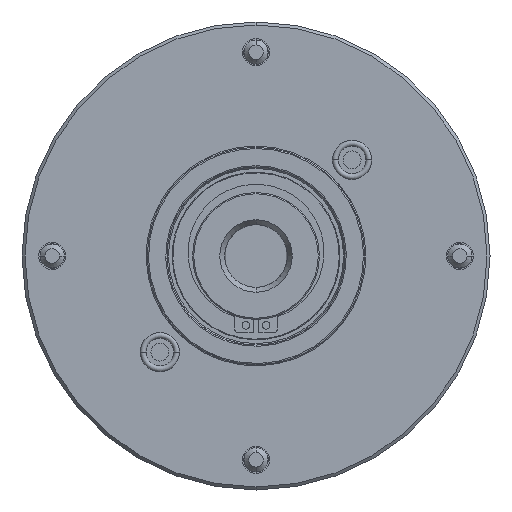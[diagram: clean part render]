
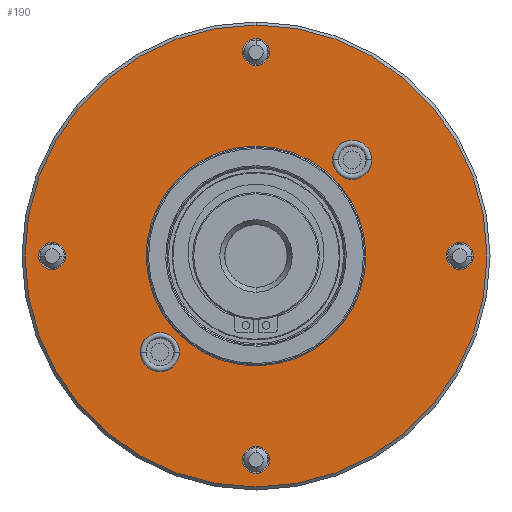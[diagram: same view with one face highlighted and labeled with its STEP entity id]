
A CAD part, front view. The second image highlights one B-rep face of the part: STEP entity #190.
In plain terms, the highlighted planar face has unit normal (0, -1, 0).
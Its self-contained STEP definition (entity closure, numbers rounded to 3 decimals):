
#16=CARTESIAN_POINT('',(0.0,2.5,36.4));
#17=VERTEX_POINT('',#16);
#18=CARTESIAN_POINT('',(34.618,2.5,-11.248));
#19=VERTEX_POINT('',#18);
#20=CARTESIAN_POINT('',(0.0,2.5,0.0));
#21=DIRECTION('',(0.0,1.0,0.0));
#22=DIRECTION('',(0.0,0.0,1.0));
#23=AXIS2_PLACEMENT_3D('',#20,#21,#22);
#24=CIRCLE('',#23,36.4);
#25=EDGE_CURVE('no 517',#17,#19,#24,.T.);
#26=ORIENTED_EDGE('',*,*,#25,.T.);
#27=CARTESIAN_POINT('',(-34.618,2.5,11.248));
#28=VERTEX_POINT('',#27);
#29=CARTESIAN_POINT('',(0.0,2.5,0.0));
#30=DIRECTION('',(0.0,1.0,0.0));
#31=DIRECTION('',(0.0,0.0,1.0));
#32=AXIS2_PLACEMENT_3D('',#29,#30,#31);
#33=CIRCLE('',#32,36.4);
#34=EDGE_CURVE('no 523',#19,#28,#33,.T.);
#35=ORIENTED_EDGE('',*,*,#34,.T.);
#36=CARTESIAN_POINT('',(0.0,2.5,0.0));
#37=DIRECTION('',(0.0,1.0,0.0));
#38=DIRECTION('',(0.0,0.0,1.0));
#39=AXIS2_PLACEMENT_3D('',#36,#37,#38);
#40=CIRCLE('',#39,36.4);
#41=EDGE_CURVE('no 527',#28,#17,#40,.T.);
#42=ORIENTED_EDGE('',*,*,#41,.T.);
#43=EDGE_LOOP('',(#26,#35,#42));
#44=FACE_BOUND('',#43,.T.);
#45=CARTESIAN_POINT('',(0.0,2.5,76.5));
#46=VERTEX_POINT('',#45);
#47=CARTESIAN_POINT('',(0.0,2.5,-76.5));
#48=VERTEX_POINT('',#47);
#49=CARTESIAN_POINT('',(0.0,2.5,0.0));
#50=DIRECTION('',(0.0,-1.0,0.0));
#51=DIRECTION('',(0.0,0.0,1.0));
#52=AXIS2_PLACEMENT_3D('',#49,#50,#51);
#53=CIRCLE('',#52,76.5);
#54=EDGE_CURVE('no 536',#46,#48,#53,.T.);
#55=ORIENTED_EDGE('',*,*,#54,.T.);
#56=CARTESIAN_POINT('',(0.0,2.5,0.0));
#57=DIRECTION('',(0.0,-1.0,0.0));
#58=DIRECTION('',(0.0,0.0,1.0));
#59=AXIS2_PLACEMENT_3D('',#56,#57,#58);
#60=CIRCLE('',#59,76.5);
#61=EDGE_CURVE('no 540',#48,#46,#60,.T.);
#62=ORIENTED_EDGE('',*,*,#61,.T.);
#63=EDGE_LOOP('',(#55,#62));
#64=FACE_OUTER_BOUND('',#63,.T.);
#65=CARTESIAN_POINT('',(0.0,2.5,-63.0));
#66=VERTEX_POINT('',#65);
#67=CARTESIAN_POINT('',(0.0,2.5,-72.0));
#68=VERTEX_POINT('',#67);
#69=CARTESIAN_POINT('',(0.0,2.5,-67.5));
#70=DIRECTION('',(0.0,-1.0,0.0));
#71=DIRECTION('',(0.0,0.0,-1.0));
#72=AXIS2_PLACEMENT_3D('',#69,#70,#71);
#73=CIRCLE('',#72,4.5);
#74=EDGE_CURVE('no 549',#66,#68,#73,.T.);
#75=ORIENTED_EDGE('',*,*,#74,.F.);
#76=CARTESIAN_POINT('',(0.0,2.5,-67.5));
#77=DIRECTION('',(0.0,-1.0,0.0));
#78=DIRECTION('',(0.0,0.0,-1.0));
#79=AXIS2_PLACEMENT_3D('',#76,#77,#78);
#80=CIRCLE('',#79,4.5);
#81=EDGE_CURVE('no 553',#68,#66,#80,.T.);
#82=ORIENTED_EDGE('',*,*,#81,.F.);
#83=EDGE_LOOP('',(#75,#82));
#84=FACE_BOUND('',#83,.T.);
#85=CARTESIAN_POINT('',(0.0,2.5,72.0));
#86=VERTEX_POINT('',#85);
#87=CARTESIAN_POINT('',(0.0,2.5,63.0));
#88=VERTEX_POINT('',#87);
#89=CARTESIAN_POINT('',(0.0,2.5,67.5));
#90=DIRECTION('',(0.0,-1.0,0.0));
#91=DIRECTION('',(0.0,0.0,-1.0));
#92=AXIS2_PLACEMENT_3D('',#89,#90,#91);
#93=CIRCLE('',#92,4.5);
#94=EDGE_CURVE('no 562',#86,#88,#93,.T.);
#95=ORIENTED_EDGE('',*,*,#94,.F.);
#96=CARTESIAN_POINT('',(0.0,2.5,67.5));
#97=DIRECTION('',(0.0,-1.0,0.0));
#98=DIRECTION('',(0.0,0.0,-1.0));
#99=AXIS2_PLACEMENT_3D('',#96,#97,#98);
#100=CIRCLE('',#99,4.5);
#101=EDGE_CURVE('no 566',#88,#86,#100,.T.);
#102=ORIENTED_EDGE('',*,*,#101,.F.);
#103=EDGE_LOOP('',(#95,#102));
#104=FACE_BOUND('',#103,.T.);
#105=CARTESIAN_POINT('',(-67.5,2.5,4.5));
#106=VERTEX_POINT('',#105);
#107=CARTESIAN_POINT('',(-67.5,2.5,-4.5));
#108=VERTEX_POINT('',#107);
#109=CARTESIAN_POINT('',(-67.5,2.5,0.0));
#110=DIRECTION('',(0.0,-1.0,0.0));
#111=DIRECTION('',(0.0,0.0,-1.0));
#112=AXIS2_PLACEMENT_3D('',#109,#110,#111);
#113=CIRCLE('',#112,4.5);
#114=EDGE_CURVE('no 575',#106,#108,#113,.T.);
#115=ORIENTED_EDGE('',*,*,#114,.F.);
#116=CARTESIAN_POINT('',(-67.5,2.5,0.0));
#117=DIRECTION('',(0.0,-1.0,0.0));
#118=DIRECTION('',(0.0,0.0,-1.0));
#119=AXIS2_PLACEMENT_3D('',#116,#117,#118);
#120=CIRCLE('',#119,4.5);
#121=EDGE_CURVE('no 579',#108,#106,#120,.T.);
#122=ORIENTED_EDGE('',*,*,#121,.F.);
#123=EDGE_LOOP('',(#115,#122));
#124=FACE_BOUND('',#123,.T.);
#125=CARTESIAN_POINT('',(67.5,2.5,4.5));
#126=VERTEX_POINT('',#125);
#127=CARTESIAN_POINT('',(67.5,2.5,-4.5));
#128=VERTEX_POINT('',#127);
#129=CARTESIAN_POINT('',(67.5,2.5,0.0));
#130=DIRECTION('',(0.0,-1.0,0.0));
#131=DIRECTION('',(0.0,0.0,-1.0));
#132=AXIS2_PLACEMENT_3D('',#129,#130,#131);
#133=CIRCLE('',#132,4.5);
#134=EDGE_CURVE('no 588',#126,#128,#133,.T.);
#135=ORIENTED_EDGE('',*,*,#134,.F.);
#136=CARTESIAN_POINT('',(67.5,2.5,0.0));
#137=DIRECTION('',(0.0,-1.0,0.0));
#138=DIRECTION('',(0.0,0.0,-1.0));
#139=AXIS2_PLACEMENT_3D('',#136,#137,#138);
#140=CIRCLE('',#139,4.5);
#141=EDGE_CURVE('no 592',#128,#126,#140,.T.);
#142=ORIENTED_EDGE('',*,*,#141,.F.);
#143=EDGE_LOOP('',(#135,#142));
#144=FACE_BOUND('',#143,.T.);
#145=CARTESIAN_POINT('',(31.82,2.5,38.32));
#146=VERTEX_POINT('',#145);
#147=CARTESIAN_POINT('',(31.82,2.5,25.32));
#148=VERTEX_POINT('',#147);
#149=CARTESIAN_POINT('',(31.82,2.5,31.82));
#150=DIRECTION('',(0.0,-1.0,0.0));
#151=DIRECTION('',(0.0,0.0,-1.0));
#152=AXIS2_PLACEMENT_3D('',#149,#150,#151);
#153=CIRCLE('',#152,6.5);
#154=EDGE_CURVE('no 601',#146,#148,#153,.T.);
#155=ORIENTED_EDGE('',*,*,#154,.F.);
#156=CARTESIAN_POINT('',(31.82,2.5,31.82));
#157=DIRECTION('',(0.0,-1.0,0.0));
#158=DIRECTION('',(0.0,0.0,-1.0));
#159=AXIS2_PLACEMENT_3D('',#156,#157,#158);
#160=CIRCLE('',#159,6.5);
#161=EDGE_CURVE('no 605',#148,#146,#160,.T.);
#162=ORIENTED_EDGE('',*,*,#161,.F.);
#163=EDGE_LOOP('',(#155,#162));
#164=FACE_BOUND('',#163,.T.);
#165=CARTESIAN_POINT('',(-31.82,2.5,-25.32));
#166=VERTEX_POINT('',#165);
#167=CARTESIAN_POINT('',(-31.82,2.5,-38.32));
#168=VERTEX_POINT('',#167);
#169=CARTESIAN_POINT('',(-31.82,2.5,-31.82));
#170=DIRECTION('',(0.0,-1.0,0.0));
#171=DIRECTION('',(0.0,0.0,-1.0));
#172=AXIS2_PLACEMENT_3D('',#169,#170,#171);
#173=CIRCLE('',#172,6.5);
#174=EDGE_CURVE('no 614',#166,#168,#173,.T.);
#175=ORIENTED_EDGE('',*,*,#174,.F.);
#176=CARTESIAN_POINT('',(-31.82,2.5,-31.82));
#177=DIRECTION('',(0.0,-1.0,0.0));
#178=DIRECTION('',(0.0,0.0,-1.0));
#179=AXIS2_PLACEMENT_3D('',#176,#177,#178);
#180=CIRCLE('',#179,6.5);
#181=EDGE_CURVE('no 618',#168,#166,#180,.T.);
#182=ORIENTED_EDGE('',*,*,#181,.F.);
#183=EDGE_LOOP('',(#175,#182));
#184=FACE_BOUND('',#183,.T.);
#185=CARTESIAN_POINT('',(-36.0,2.5,0.0));
#186=DIRECTION('',(0.0,1.0,0.0));
#187=DIRECTION('',(0.0,0.0,1.0));
#188=AXIS2_PLACEMENT_3D('',#185,#186,#187);
#189=PLANE('',#188);
#190=ADVANCED_FACE('no 508',(#44,#64,#84,#104,#124,#144,#164,#184),#189,.F.);
